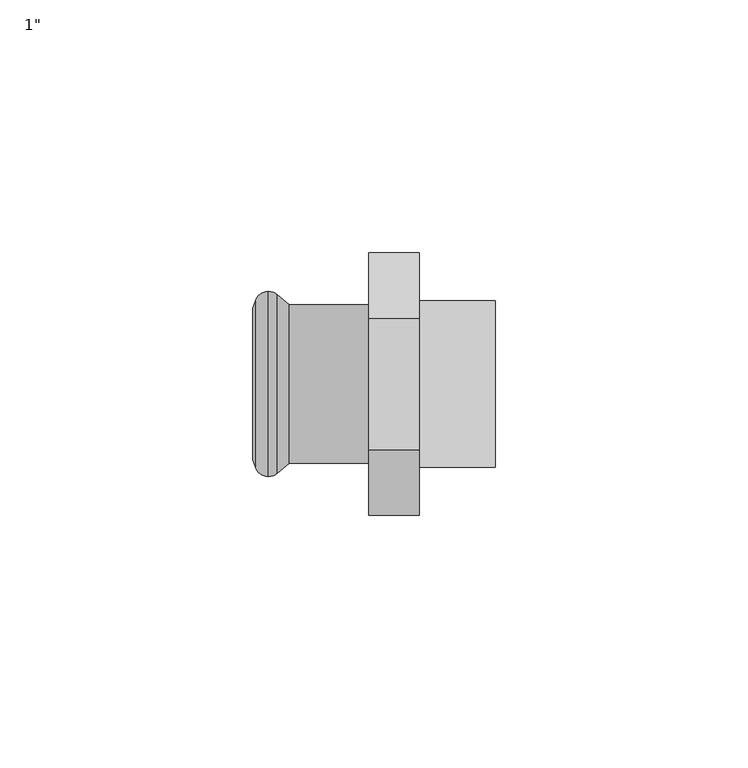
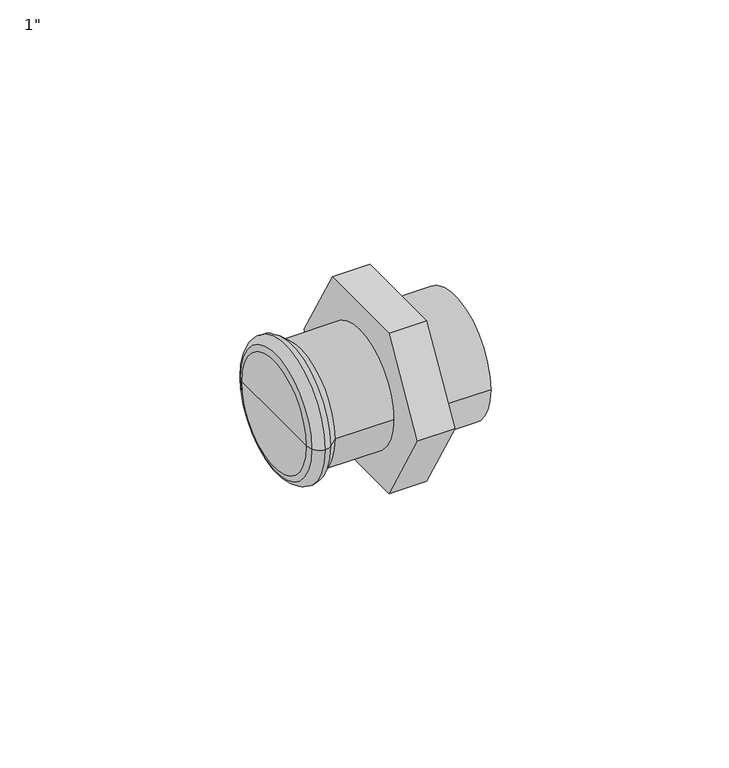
"""IFC4 building model written with IfcOpenShell, lengths in millimetres: pipe fitting geometry."""

from ifc_helpers import new_model, si_unit, point, frame, origin, origin_2d, place, context, project, spatial, polyline, circle_curve, ellipse_curve, trimmed, segment, composite_curve, outline, extrude, source, transform, mapped, element, save
from ifc_brep_helpers import plane_surface, cylinder_surface, revolved_surface, advanced_brep


def pipe_fitting_f741bfbc(model_context):
    return source(origin(), model_context, "Body", "SolidModel", [
        extrude(outline(composite_curve([segment(trimmed(circle_curve(origin_2d(), 16.5), [point((-16.5, 0.0))], [point((16.5, 0.0))], False, "CARTESIAN"), True, "CONTINUOUS"), segment(trimmed(circle_curve(origin_2d(), 16.5), [point((16.5, 0.0))], [point((-16.5, 0.0))], False, "CARTESIAN"), True, "CONTINUOUS")], self_intersect=False)), frame((10.0, 0.0, 0.0), z_axis=(1.0, 0.0, 0.0), x_axis=(0.0, 1.0, 0.0)), (0.0, 0.0, 1.0), 15.0),
        extrude(outline(polyline([(-25.9807621, 0.0), (-12.9903811, 22.5), (12.9903811, 22.5), (25.9807621, 0.0), (12.9903811, -22.5), (-12.9903811, -22.5), (-25.9807621, 0.0)])), frame((0.0, 0.0, 0.0), z_axis=(1.0, 0.0, 0.0), x_axis=(0.0, 1.0, 0.0)), (0.0, 0.0, 1.0), 10.0),
        advanced_brep(
        [(-15.7838092, -15.7, 0.0), (-15.7838092, 15.7, 0.0), (0.0, 15.7, 0.0), (0.0, -15.7, 0.0), (-18.0922627, -17.6370225, 0.0), (-18.0922627, 17.6370225, 0.0), (-19.8921278, -18.325, 0.0), (-19.8921278, 18.325, 0.0), (-22.432052, -16.5484544, 0.0), (-22.432052, 16.5484544, 0.0), (-23.0, -14.9880302, 0.0), (-23.0, 14.9880302, 0.0), (-23.0, 0.0, 0.0), (0.0, 0.0, 0.0)],
        [
            (0, 1, circle_curve(frame((-15.7838092, 0.0, 0.0), z_axis=(1.0, 0.0, 0.0), x_axis=(0.0, 1.0, 0.0)), 15.7)),
            (1, 2),
            (2, 3, circle_curve(frame((0.0, 0.0, 0.0), z_axis=(-1.0, 0.0, 0.0), x_axis=(0.0, 1.0, 0.0)), 15.7)),
            (3, 0),
            (1, 0, circle_curve(frame((-15.7838092, 0.0, 0.0), z_axis=(1.0, 0.0, 0.0), x_axis=(0.0, 1.0, 0.0)), 15.7)),
            (3, 2, circle_curve(frame((0.0, 0.0, 0.0), z_axis=(-1.0, 0.0, 0.0), x_axis=(0.0, 1.0, 0.0)), 15.7)),
            (4, 5, circle_curve(frame((-18.0922627, 0.0, 0.0), z_axis=(1.0, 0.0, 0.0), x_axis=(0.0, 1.0, 0.0)), 17.6370225)),
            (5, 1),
            (0, 4),
            (5, 4, circle_curve(frame((-18.0922627, 0.0, 0.0), z_axis=(1.0, 0.0, 0.0), x_axis=(0.0, 1.0, 0.0)), 17.6370225)),
            (6, 7, circle_curve(frame((-19.8921278, 0.0, 0.0), z_axis=(1.0, 0.0, 0.0), x_axis=(0.0, 1.0, 0.0)), 18.325)),
            (7, 5, circle_curve(frame((-19.8935049, 15.6230333, 0.0), z_axis=(0.0, 0.0, -1.0), x_axis=(1.0, 0.0, 0.0)), 2.701967)),
            (4, 6, circle_curve(frame((-19.8935049, -15.6230333, 0.0), z_axis=(0.0, 0.0, -1.0), x_axis=(1.0, 0.0, 0.0)), 2.701967)),
            (7, 6, circle_curve(frame((-19.8921278, 0.0, 0.0), z_axis=(1.0, 0.0, 0.0), x_axis=(0.0, 1.0, 0.0)), 18.325)),
            (8, 9, circle_curve(frame((-22.432052, 0.0, 0.0), z_axis=(1.0, 0.0, 0.0), x_axis=(0.0, 1.0, 0.0)), 16.5484544)),
            (9, 7, circle_curve(frame((-19.89488, 15.6249993, 0.0), z_axis=(0.0, 0.0, -1.0), x_axis=(1.0, 0.0, 0.0)), 2.7000021)),
            (6, 8, circle_curve(frame((-19.89488, -15.6249993, 0.0), z_axis=(0.0, 0.0, -1.0), x_axis=(1.0, 0.0, 0.0)), 2.7000021)),
            (9, 8, circle_curve(frame((-22.432052, 0.0, 0.0), z_axis=(1.0, 0.0, 0.0), x_axis=(0.0, 1.0, 0.0)), 16.5484544)),
            (10, 11, circle_curve(frame((-23.0, 0.0, 0.0), z_axis=(1.0, 0.0, 0.0), x_axis=(0.0, 1.0, 0.0)), 14.9880302)),
            (11, 9),
            (8, 10),
            (11, 10, circle_curve(frame((-23.0, 0.0, 0.0), z_axis=(1.0, 0.0, 0.0), x_axis=(0.0, 1.0, 0.0)), 14.9880302)),
            (12, 11),
            (10, 12),
            (2, 13),
            (13, 3),
        ],
        [
            cylinder_surface(frame((1338.742668, 0.0, 0.0), z_axis=(-1.0, 0.0, 0.0), x_axis=(0.0, 1.0, 0.0)), 15.7),
            revolved_surface(polyline([(-15.7838092, 15.7, 0.0), (-18.0922627, 17.6370225, 0.0)]), (1338.742668, 0.0, 0.0), (-1.0, 0.0, 0.0)),
            revolved_surface(trimmed(ellipse_curve(frame((-19.8935049, 15.6230333, 0.0), z_axis=(0.0, 0.0, 1.0), x_axis=(1.0, 0.0, 0.0)), 2.701967, 2.701967), [point((-18.0922627, 17.6370225, 0.0))], [point((-19.8921278, 18.325, 0.0))], True, "CARTESIAN"), (1338.742668, 0.0, 0.0), (-1.0, 0.0, 0.0)),
            revolved_surface(trimmed(ellipse_curve(frame((-19.89488, 15.6249993, 0.0), z_axis=(0.0, 0.0, 1.0), x_axis=(1.0, 0.0, 0.0)), 2.7000021, 2.7000021), [point((-19.8921278, 18.325, 0.0))], [point((-22.432052, 16.5484544, 0.0))], True, "CARTESIAN"), (1338.742668, 0.0, 0.0), (-1.0, 0.0, 0.0)),
            revolved_surface(polyline([(-22.432052, 16.5484544, 0.0), (-23.0, 14.9880302, 0.0)]), (1338.742668, 0.0, 0.0), (-1.0, 0.0, 0.0)),
            plane_surface(frame((-23.0, 0.0, 0.0), z_axis=(-1.0, 0.0, 0.0), x_axis=(0.0, 1.0, 0.0))),
            plane_surface(frame((0.0, 0.0, 0.0), z_axis=(1.0, 0.0, 0.0), x_axis=(0.0, 1.0, 0.0))),
        ],
        [
            (0, [[1, 2, 3, 4]]),
            (0, [[5, -4, 6, -2]]),
            (1, [[7, 8, -1, 9]]),
            (1, [[10, -9, -5, -8]]),
            (2, [[11, 12, -7, 13]]),
            (2, [[14, -13, -10, -12]]),
            (3, [[15, 16, -11, 17]]),
            (3, [[18, -17, -14, -16]]),
            (4, [[19, 20, -15, 21]]),
            (4, [[22, -21, -18, -20]]),
            (5, [[23, -19, 24]]),
            (5, [[-24, -22, -23]]),
            (6, [[-3, 25, 26]]),
            (6, [[-6, -26, -25]]),
        ],
    ),
    ])


if __name__ == "__main__":
    model = new_model("IFC4")
    model_context = context("Model", 3, world=origin())
    ifc_project = project(units=[si_unit("LENGTHUNIT", "METRE", prefix="MILLI")], contexts=[model_context])
    site = spatial("IfcSite", under=ifc_project)
    building = spatial("IfcBuilding", under=site)
    placement = place(None, origin())
    pipe_fitting_shape = pipe_fitting_f741bfbc(model_context)
    element("IfcPipeFitting", 1, ObjectType="KAN-therm Inox złączka z GZ : 1\"", at=placement, inside=building, context=model_context, shape_type="MappedRepresentation", body=[
        mapped(pipe_fitting_shape, transform((0.0, 0.0, 0.0), x_axis=(1.0, 0.0, 0.0), y_axis=(0.0, 1.0, 0.0), z_axis=(0.0, 0.0, 1.0))),
    ])
    save(model, "model.ifc")
